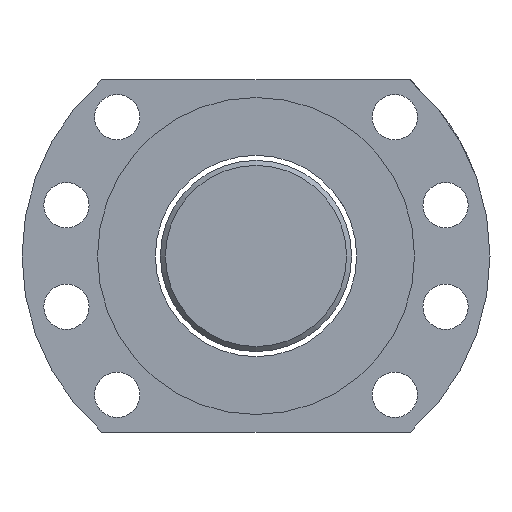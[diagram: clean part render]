
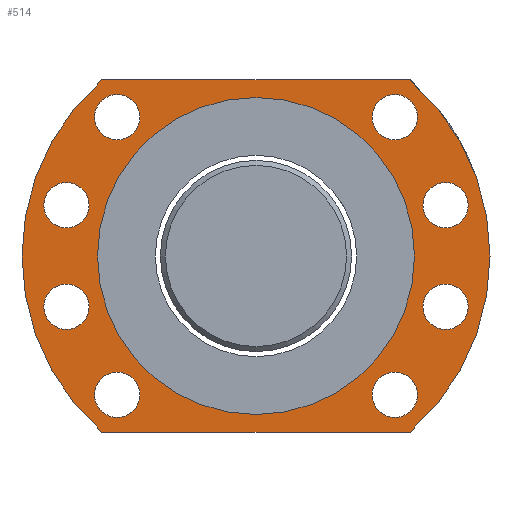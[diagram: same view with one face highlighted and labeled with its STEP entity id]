
A CAD part, left-side view. The second image highlights one B-rep face of the part: STEP entity #514.
In plain terms, the highlighted planar face has unit normal (-1, 0, 0).
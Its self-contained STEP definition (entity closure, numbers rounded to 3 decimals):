
#61=LINE('',#864,#69);
#64=LINE('',#870,#72);
#69=VECTOR('',#706,1000.);
#72=VECTOR('',#711,1000.);
#83=PLANE('',#606);
#160=ORIENTED_EDGE('',*,*,#229,.T.);
#161=ORIENTED_EDGE('',*,*,#231,.F.);
#162=ORIENTED_EDGE('',*,*,#235,.T.);
#163=ORIENTED_EDGE('',*,*,#253,.F.);
#164=ORIENTED_EDGE('',*,*,#250,.T.);
#165=ORIENTED_EDGE('',*,*,#247,.T.);
#166=ORIENTED_EDGE('',*,*,#217,.T.);
#167=ORIENTED_EDGE('',*,*,#244,.T.);
#168=ORIENTED_EDGE('',*,*,#243,.F.);
#169=ORIENTED_EDGE('',*,*,#241,.F.);
#170=ORIENTED_EDGE('',*,*,#239,.F.);
#171=ORIENTED_EDGE('',*,*,#237,.T.);
#172=ORIENTED_EDGE('',*,*,#233,.T.);
#217=EDGE_CURVE('',#271,#272,#316,.T.);
#229=EDGE_CURVE('',#283,#283,#322,.T.);
#231=EDGE_CURVE('',#285,#285,#324,.T.);
#233=EDGE_CURVE('',#287,#287,#326,.T.);
#235=EDGE_CURVE('',#289,#289,#328,.T.);
#237=EDGE_CURVE('',#291,#291,#330,.T.);
#239=EDGE_CURVE('',#293,#293,#332,.T.);
#241=EDGE_CURVE('',#295,#295,#334,.T.);
#243=EDGE_CURVE('',#297,#297,#336,.T.);
#244=EDGE_CURVE('',#272,#298,#61,.T.);
#247=EDGE_CURVE('',#300,#271,#64,.T.);
#250=EDGE_CURVE('',#298,#300,#337,.T.);
#253=EDGE_CURVE('',#303,#303,#340,.T.);
#271=VERTEX_POINT('',#782);
#272=VERTEX_POINT('',#783);
#283=VERTEX_POINT('',#827);
#285=VERTEX_POINT('',#832);
#287=VERTEX_POINT('',#837);
#289=VERTEX_POINT('',#842);
#291=VERTEX_POINT('',#847);
#293=VERTEX_POINT('',#852);
#295=VERTEX_POINT('',#857);
#297=VERTEX_POINT('',#862);
#298=VERTEX_POINT('',#865);
#300=VERTEX_POINT('',#871);
#303=VERTEX_POINT('',#882);
#316=CIRCLE('',#561,46.5);
#322=CIRCLE('',#569,4.5);
#324=CIRCLE('',#572,4.5);
#326=CIRCLE('',#575,4.5);
#328=CIRCLE('',#578,4.5);
#330=CIRCLE('',#581,4.5);
#332=CIRCLE('',#584,4.5);
#334=CIRCLE('',#587,4.5);
#336=CIRCLE('',#590,4.5);
#337=CIRCLE('',#594,46.5);
#340=CIRCLE('',#598,31.5);
#386=EDGE_LOOP('',(#160));
#387=EDGE_LOOP('',(#161));
#388=EDGE_LOOP('',(#162));
#389=EDGE_LOOP('',(#163));
#390=EDGE_LOOP('',(#164,#165,#166,#167));
#391=EDGE_LOOP('',(#168));
#392=EDGE_LOOP('',(#169));
#393=EDGE_LOOP('',(#170));
#394=EDGE_LOOP('',(#171));
#395=EDGE_LOOP('',(#172));
#457=FACE_BOUND('',#386,.T.);
#458=FACE_BOUND('',#387,.T.);
#459=FACE_BOUND('',#388,.T.);
#460=FACE_BOUND('',#389,.T.);
#461=FACE_BOUND('',#390,.T.);
#462=FACE_BOUND('',#391,.T.);
#463=FACE_BOUND('',#392,.T.);
#464=FACE_BOUND('',#393,.T.);
#465=FACE_BOUND('',#394,.T.);
#466=FACE_BOUND('',#395,.T.);
#514=ADVANCED_FACE('',(#457,#458,#459,#460,#461,#462,#463,#464,#465,#466),
#83,.T.);
#561=AXIS2_PLACEMENT_3D('',#781,#642,#643);
#569=AXIS2_PLACEMENT_3D('',#826,#660,#661);
#572=AXIS2_PLACEMENT_3D('',#831,#666,#667);
#575=AXIS2_PLACEMENT_3D('',#836,#672,#673);
#578=AXIS2_PLACEMENT_3D('',#841,#678,#679);
#581=AXIS2_PLACEMENT_3D('',#846,#684,#685);
#584=AXIS2_PLACEMENT_3D('',#851,#690,#691);
#587=AXIS2_PLACEMENT_3D('',#856,#696,#697);
#590=AXIS2_PLACEMENT_3D('',#861,#702,#703);
#594=AXIS2_PLACEMENT_3D('',#876,#716,#717);
#598=AXIS2_PLACEMENT_3D('',#881,#724,#725);
#606=AXIS2_PLACEMENT_3D('',#894,#740,#741);
#642=DIRECTION('',(-1.,0.,0.));
#643=DIRECTION('',(0.,0.,-1.));
#660=DIRECTION('',(1.,0.,0.));
#661=DIRECTION('',(0.,0.,1.));
#666=DIRECTION('',(-1.,0.,0.));
#667=DIRECTION('',(0.,0.,1.));
#672=DIRECTION('',(1.,0.,0.));
#673=DIRECTION('',(0.,0.,1.));
#678=DIRECTION('',(1.,0.,0.));
#679=DIRECTION('',(0.,0.,1.));
#684=DIRECTION('',(1.,0.,0.));
#685=DIRECTION('',(0.,0.,1.));
#690=DIRECTION('',(-1.,0.,0.));
#691=DIRECTION('',(0.,0.,1.));
#696=DIRECTION('',(-1.,0.,0.));
#697=DIRECTION('',(0.,0.,1.));
#702=DIRECTION('',(-1.,0.,0.));
#703=DIRECTION('',(0.,0.,1.));
#706=DIRECTION('',(0.,1.,0.));
#711=DIRECTION('',(0.,-1.,0.));
#716=DIRECTION('',(-1.,0.,0.));
#717=DIRECTION('',(0.,0.,-1.));
#724=DIRECTION('',(-1.,0.,0.));
#725=DIRECTION('',(0.,0.,-1.));
#740=DIRECTION('',(-1.,0.,0.));
#741=DIRECTION('',(0.,0.,1.));
#781=CARTESIAN_POINT('',(39.406,0.198,-1.608));
#782=CARTESIAN_POINT('',(39.406,-30.417,-36.608));
#783=CARTESIAN_POINT('',(39.406,-30.417,33.392));
#826=CARTESIAN_POINT('',(39.406,-27.38,25.97));
#827=CARTESIAN_POINT('',(39.406,-27.38,30.47));
#831=CARTESIAN_POINT('',(39.406,27.775,25.97));
#832=CARTESIAN_POINT('',(39.406,27.775,30.47));
#836=CARTESIAN_POINT('',(39.406,-37.474,8.486));
#837=CARTESIAN_POINT('',(39.406,-37.474,12.986));
#841=CARTESIAN_POINT('',(39.406,-37.474,-11.702));
#842=CARTESIAN_POINT('',(39.406,-37.474,-7.202));
#846=CARTESIAN_POINT('',(39.406,-27.38,-29.185));
#847=CARTESIAN_POINT('',(39.406,-27.38,-24.685));
#851=CARTESIAN_POINT('',(39.406,27.775,-29.185));
#852=CARTESIAN_POINT('',(39.406,27.775,-24.685));
#856=CARTESIAN_POINT('',(39.406,37.869,8.486));
#857=CARTESIAN_POINT('',(39.406,37.869,12.986));
#861=CARTESIAN_POINT('',(39.406,37.869,-11.702));
#862=CARTESIAN_POINT('',(39.406,37.869,-7.202));
#864=CARTESIAN_POINT('',(39.406,-30.417,33.392));
#865=CARTESIAN_POINT('',(39.406,30.812,33.392));
#870=CARTESIAN_POINT('',(39.406,30.812,-36.608));
#871=CARTESIAN_POINT('',(39.406,30.812,-36.608));
#876=CARTESIAN_POINT('',(39.406,0.198,-1.608));
#881=CARTESIAN_POINT('',(39.406,0.198,-1.608));
#882=CARTESIAN_POINT('',(39.406,0.198,-33.108));
#894=CARTESIAN_POINT('',(39.406,0.198,-1.608));
